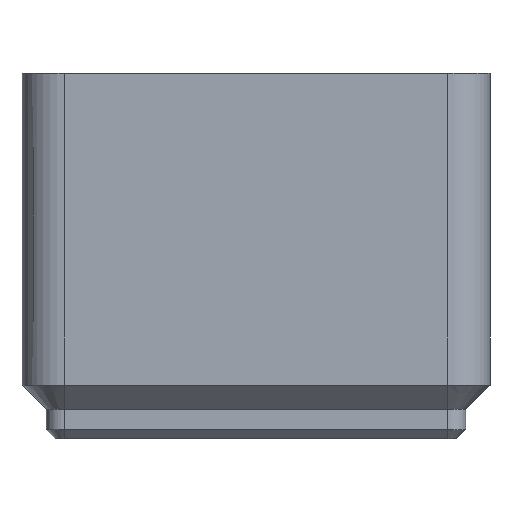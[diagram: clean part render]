
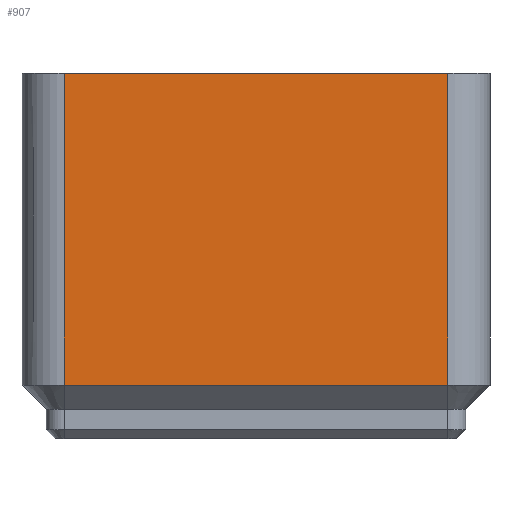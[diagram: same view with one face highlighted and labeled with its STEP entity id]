
A CAD part, left-side view. The second image highlights one B-rep face of the part: STEP entity #907.
In plain terms, the highlighted planar face has unit normal (-1, 0, 0).
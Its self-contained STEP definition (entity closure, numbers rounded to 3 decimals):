
#100 = PLANE('',#101);
#101 = AXIS2_PLACEMENT_3D('',#102,#103,#104);
#102 = CARTESIAN_POINT('',(-19.675,-17.,3.675));
#103 = DIRECTION('',(0.707,0.,0.707)
  );
#104 = DIRECTION('',(0.,-1.,0.));
#307 = VERTEX_POINT('',#308);
#308 = CARTESIAN_POINT('',(-20.75,-17.,4.75));
#332 = EDGE_CURVE('',#307,#333,#335,.T.);
#333 = VERTEX_POINT('',#334);
#334 = CARTESIAN_POINT('',(-20.75,17.,4.75));
#335 = SURFACE_CURVE('',#336,(#340,#347),.PCURVE_S1.);
#336 = LINE('',#337,#338);
#337 = CARTESIAN_POINT('',(-20.75,-17.,4.75));
#338 = VECTOR('',#339,1.);
#339 = DIRECTION('',(0.,1.,0.));
#340 = PCURVE('',#100,#341);
#341 = DEFINITIONAL_REPRESENTATION('',(#342),#346);
#342 = LINE('',#343,#344);
#343 = CARTESIAN_POINT('',(-0.,-1.52));
#344 = VECTOR('',#345,1.);
#345 = DIRECTION('',(-1.,0.));
#346 = ( GEOMETRIC_REPRESENTATION_CONTEXT(2) 
PARAMETRIC_REPRESENTATION_CONTEXT() REPRESENTATION_CONTEXT('2D SPACE',''
  ) );
#347 = PCURVE('',#348,#353);
#348 = PLANE('',#349);
#349 = AXIS2_PLACEMENT_3D('',#350,#351,#352);
#350 = CARTESIAN_POINT('',(-20.75,-17.,2.6));
#351 = DIRECTION('',(-1.,0.,0.));
#352 = DIRECTION('',(0.,1.,0.));
#353 = DEFINITIONAL_REPRESENTATION('',(#354),#358);
#354 = LINE('',#355,#356);
#355 = CARTESIAN_POINT('',(0.,-2.15));
#356 = VECTOR('',#357,1.);
#357 = DIRECTION('',(1.,0.));
#358 = ( GEOMETRIC_REPRESENTATION_CONTEXT(2) 
PARAMETRIC_REPRESENTATION_CONTEXT() REPRESENTATION_CONTEXT('2D SPACE',''
  ) );
#737 = CYLINDRICAL_SURFACE('',#738,3.75);
#738 = AXIS2_PLACEMENT_3D('',#739,#740,#741);
#739 = CARTESIAN_POINT('',(-17.,17.,2.6));
#740 = DIRECTION('',(0.,0.,-1.));
#741 = DIRECTION('',(-1.,0.,0.));
#894 = CYLINDRICAL_SURFACE('',#895,3.75);
#895 = AXIS2_PLACEMENT_3D('',#896,#897,#898);
#896 = CARTESIAN_POINT('',(-17.,-17.,2.6));
#897 = DIRECTION('',(0.,0.,-1.));
#898 = DIRECTION('',(-1.,0.,0.));
#907 = ADVANCED_FACE('',(#908),#348,.T.);
#908 = FACE_BOUND('',#909,.T.);
#909 = EDGE_LOOP('',(#910,#911,#934,#962));
#910 = ORIENTED_EDGE('',*,*,#332,.F.);
#911 = ORIENTED_EDGE('',*,*,#912,.T.);
#912 = EDGE_CURVE('',#307,#913,#915,.T.);
#913 = VERTEX_POINT('',#914);
#914 = CARTESIAN_POINT('',(-20.75,-17.,32.4));
#915 = SURFACE_CURVE('',#916,(#920,#927),.PCURVE_S1.);
#916 = LINE('',#917,#918);
#917 = CARTESIAN_POINT('',(-20.75,-17.,4.75));
#918 = VECTOR('',#919,1.);
#919 = DIRECTION('',(0.,0.,1.));
#920 = PCURVE('',#348,#921);
#921 = DEFINITIONAL_REPRESENTATION('',(#922),#926);
#922 = LINE('',#923,#924);
#923 = CARTESIAN_POINT('',(0.,-2.15));
#924 = VECTOR('',#925,1.);
#925 = DIRECTION('',(0.,-1.));
#926 = ( GEOMETRIC_REPRESENTATION_CONTEXT(2) 
PARAMETRIC_REPRESENTATION_CONTEXT() REPRESENTATION_CONTEXT('2D SPACE',''
  ) );
#927 = PCURVE('',#894,#928);
#928 = DEFINITIONAL_REPRESENTATION('',(#929),#933);
#929 = LINE('',#930,#931);
#930 = CARTESIAN_POINT('',(6.283,-2.15));
#931 = VECTOR('',#932,1.);
#932 = DIRECTION('',(0.,-1.));
#933 = ( GEOMETRIC_REPRESENTATION_CONTEXT(2) 
PARAMETRIC_REPRESENTATION_CONTEXT() REPRESENTATION_CONTEXT('2D SPACE',''
  ) );
#934 = ORIENTED_EDGE('',*,*,#935,.T.);
#935 = EDGE_CURVE('',#913,#936,#938,.T.);
#936 = VERTEX_POINT('',#937);
#937 = CARTESIAN_POINT('',(-20.75,17.,32.4));
#938 = SURFACE_CURVE('',#939,(#943,#950),.PCURVE_S1.);
#939 = LINE('',#940,#941);
#940 = CARTESIAN_POINT('',(-20.75,0.,32.4));
#941 = VECTOR('',#942,1.);
#942 = DIRECTION('',(0.,1.,0.));
#943 = PCURVE('',#348,#944);
#944 = DEFINITIONAL_REPRESENTATION('',(#945),#949);
#945 = LINE('',#946,#947);
#946 = CARTESIAN_POINT('',(17.,-29.8));
#947 = VECTOR('',#948,1.);
#948 = DIRECTION('',(1.,0.));
#949 = ( GEOMETRIC_REPRESENTATION_CONTEXT(2) 
PARAMETRIC_REPRESENTATION_CONTEXT() REPRESENTATION_CONTEXT('2D SPACE',''
  ) );
#950 = PCURVE('',#951,#956);
#951 = PLANE('',#952);
#952 = AXIS2_PLACEMENT_3D('',#953,#954,#955);
#953 = CARTESIAN_POINT('',(0.,0.,32.4)
  );
#954 = DIRECTION('',(0.,0.,1.));
#955 = DIRECTION('',(1.,0.,-0.));
#956 = DEFINITIONAL_REPRESENTATION('',(#957),#961);
#957 = LINE('',#958,#959);
#958 = CARTESIAN_POINT('',(-20.75,0.));
#959 = VECTOR('',#960,1.);
#960 = DIRECTION('',(0.,1.));
#961 = ( GEOMETRIC_REPRESENTATION_CONTEXT(2) 
PARAMETRIC_REPRESENTATION_CONTEXT() REPRESENTATION_CONTEXT('2D SPACE',''
  ) );
#962 = ORIENTED_EDGE('',*,*,#963,.T.);
#963 = EDGE_CURVE('',#936,#333,#964,.T.);
#964 = SURFACE_CURVE('',#965,(#969,#976),.PCURVE_S1.);
#965 = LINE('',#966,#967);
#966 = CARTESIAN_POINT('',(-20.75,17.,32.4));
#967 = VECTOR('',#968,1.);
#968 = DIRECTION('',(0.,0.,-1.));
#969 = PCURVE('',#348,#970);
#970 = DEFINITIONAL_REPRESENTATION('',(#971),#975);
#971 = LINE('',#972,#973);
#972 = CARTESIAN_POINT('',(34.,-29.8));
#973 = VECTOR('',#974,1.);
#974 = DIRECTION('',(0.,1.));
#975 = ( GEOMETRIC_REPRESENTATION_CONTEXT(2) 
PARAMETRIC_REPRESENTATION_CONTEXT() REPRESENTATION_CONTEXT('2D SPACE',''
  ) );
#976 = PCURVE('',#737,#977);
#977 = DEFINITIONAL_REPRESENTATION('',(#978),#982);
#978 = LINE('',#979,#980);
#979 = CARTESIAN_POINT('',(0.,-29.8));
#980 = VECTOR('',#981,1.);
#981 = DIRECTION('',(-0.,1.));
#982 = ( GEOMETRIC_REPRESENTATION_CONTEXT(2) 
PARAMETRIC_REPRESENTATION_CONTEXT() REPRESENTATION_CONTEXT('2D SPACE',''
  ) );
